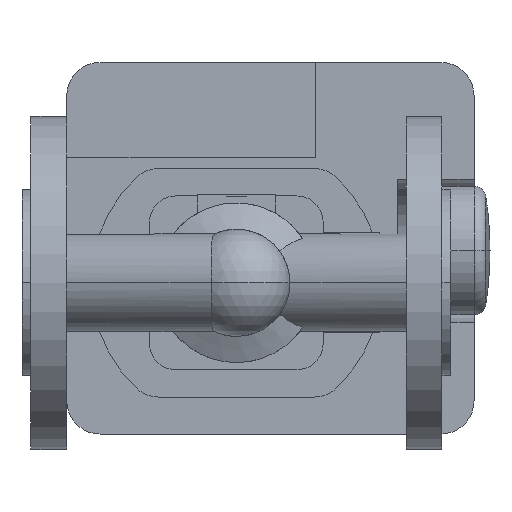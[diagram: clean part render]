
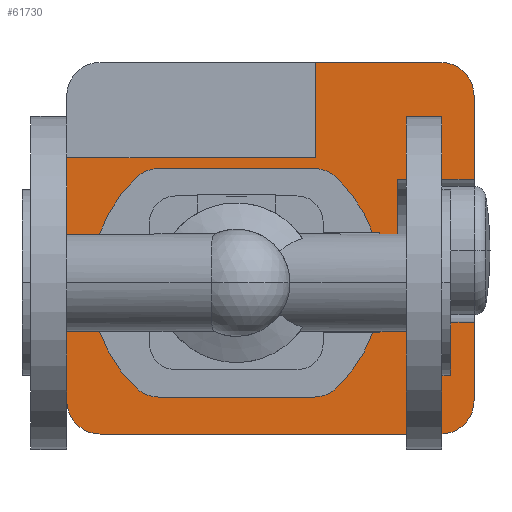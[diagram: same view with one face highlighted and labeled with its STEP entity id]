
A CAD part, front view. The second image highlights one B-rep face of the part: STEP entity #61730.
In plain terms, the highlighted planar face has unit normal (0, -1, 0).
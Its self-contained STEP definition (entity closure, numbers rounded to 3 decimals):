
#58380=CARTESIAN_POINT('',(175.8,498.5,92.5));
#58390=VERTEX_POINT('',#58380);
#58420=CARTESIAN_POINT('',(32.8,498.5,92.5));
#58430=DIRECTION('',(1.,0.,0.));
#58440=VECTOR('',#58430,1.);
#58450=LINE('',#58420,#58440);
#58460=CARTESIAN_POINT('',(123.3,498.5,92.5));
#58470=VERTEX_POINT('',#58460);
#58480=EDGE_CURVE('',#58470,#58390,#58450,.T.);
#58790=CARTESIAN_POINT('',(18.8,498.5,-49.5));
#58800=DIRECTION('',(0.,0.,1.));
#58810=VECTOR('',#58800,1.);
#58820=LINE('',#58790,#58810);
#58830=CARTESIAN_POINT('',(18.8,498.5,-49.5));
#58840=VERTEX_POINT('',#58830);
#58850=CARTESIAN_POINT('',(18.8,498.5,52.5));
#58860=VERTEX_POINT('',#58850);
#58870=EDGE_CURVE('',#58840,#58860,#58820,.T.);
#59460=CARTESIAN_POINT('',(189.8,498.5,78.5));
#59470=VERTEX_POINT('',#59460);
#59520=CARTESIAN_POINT('',(175.8,498.5,78.5));
#59530=DIRECTION('',(0.,1.,0.));
#59540=DIRECTION('',(0.,0.,1.));
#59550=AXIS2_PLACEMENT_3D('',#59520,#59530,#59540);
#59560=CIRCLE('',#59550,14.);
#59570=EDGE_CURVE('',#58390,#59470,#59560,.T.);
#59770=CARTESIAN_POINT('',(90.,498.5,0.));
#59780=DIRECTION('',(0.,1.,0.));
#59790=DIRECTION('',(0.,0.,1.));
#59800=AXIS2_PLACEMENT_3D('',#59770,#59780,#59790);
#59810=PLANE('',#59800);
#59820=CARTESIAN_POINT('',(157.8,498.5,0.));
#59830=DIRECTION('',(0.,0.,1.));
#59840=VECTOR('',#59830,1.);
#59850=LINE('',#59820,#59840);
#59860=CARTESIAN_POINT('',(157.8,498.5,-16.5));
#59870=VERTEX_POINT('',#59860);
#59880=CARTESIAN_POINT('',(157.8,498.5,43.5));
#59890=VERTEX_POINT('',#59880);
#59900=EDGE_CURVE('',#59870,#59890,#59850,.T.);
#59910=ORIENTED_EDGE('',*,*,#59900,.T.);
#59920=CARTESIAN_POINT('',(139.9,498.5,-16.5));
#59930=DIRECTION('',(-1.,0.,0.));
#59940=VECTOR('',#59930,1.);
#59950=LINE('',#59920,#59940);
#59960=CARTESIAN_POINT('',(189.8,498.5,-16.5));
#59970=VERTEX_POINT('',#59960);
#59980=EDGE_CURVE('',#59970,#59870,#59950,.T.);
#59990=ORIENTED_EDGE('',*,*,#59980,.T.);
#60000=CARTESIAN_POINT('',(189.8,498.5,78.5));
#60010=DIRECTION('',(0.,0.,-1.));
#60020=VECTOR('',#60010,1.);
#60030=LINE('',#60000,#60020);
#60040=CARTESIAN_POINT('',(189.8,498.5,-49.5));
#60050=VERTEX_POINT('',#60040);
#60060=EDGE_CURVE('',#59970,#60050,#60030,.T.);
#60070=ORIENTED_EDGE('',*,*,#60060,.F.);
#60080=CARTESIAN_POINT('',(175.8,498.5,-49.5));
#60090=DIRECTION('',(0.,1.,0.));
#60100=DIRECTION('',(1.,0.,0.));
#60110=AXIS2_PLACEMENT_3D('',#60080,#60090,#60100);
#60120=CIRCLE('',#60110,14.);
#60130=CARTESIAN_POINT('',(175.8,498.5,-63.5));
#60140=VERTEX_POINT('',#60130);
#60150=EDGE_CURVE('',#60050,#60140,#60120,.T.);
#60160=ORIENTED_EDGE('',*,*,#60150,.F.);
#60170=CARTESIAN_POINT('',(175.8,498.5,-63.5));
#60180=DIRECTION('',(-1.,0.,0.));
#60190=VECTOR('',#60180,1.);
#60200=LINE('',#60170,#60190);
#60210=CARTESIAN_POINT('',(32.8,498.5,-63.5));
#60220=VERTEX_POINT('',#60210);
#60230=EDGE_CURVE('',#60140,#60220,#60200,.T.);
#60240=ORIENTED_EDGE('',*,*,#60230,.F.);
#60250=CARTESIAN_POINT('',(32.8,498.5,-49.5));
#60260=DIRECTION('',(0.,1.,0.));
#60270=DIRECTION('',(0.,0.,-1.));
#60280=AXIS2_PLACEMENT_3D('',#60250,#60260,#60270);
#60290=CIRCLE('',#60280,14.);
#60300=EDGE_CURVE('',#60220,#58840,#60290,.T.);
#60310=ORIENTED_EDGE('',*,*,#60300,.F.);
#60320=ORIENTED_EDGE('',*,*,#58870,.F.);
#60330=CARTESIAN_POINT('',(53.9,498.5,52.5));
#60340=DIRECTION('',(-1.,0.,0.));
#60350=VECTOR('',#60340,1.);
#60360=LINE('',#60330,#60350);
#60370=CARTESIAN_POINT('',(123.3,498.5,52.5));
#60380=VERTEX_POINT('',#60370);
#60390=EDGE_CURVE('',#60380,#58860,#60360,.T.);
#60400=ORIENTED_EDGE('',*,*,#60390,.T.);
#60410=CARTESIAN_POINT('',(123.3,498.5,26.25));
#60420=DIRECTION('',(0.,0.,-1.));
#60430=VECTOR('',#60420,1.);
#60440=LINE('',#60410,#60430);
#60450=EDGE_CURVE('',#58470,#60380,#60440,.T.);
#60460=ORIENTED_EDGE('',*,*,#60450,.T.);
#60470=ORIENTED_EDGE('',*,*,#58480,.F.);
#60480=ORIENTED_EDGE('',*,*,#59570,.F.);
#60490=CARTESIAN_POINT('',(189.8,498.5,78.5));
#60500=DIRECTION('',(0.,0.,-1.));
#60510=VECTOR('',#60500,1.);
#60520=LINE('',#60490,#60510);
#60530=CARTESIAN_POINT('',(189.8,498.5,43.5));
#60540=VERTEX_POINT('',#60530);
#60550=EDGE_CURVE('',#59470,#60540,#60520,.T.);
#60560=ORIENTED_EDGE('',*,*,#60550,.F.);
#60570=CARTESIAN_POINT('',(139.9,498.5,43.5));
#60580=DIRECTION('',(1.,0.,0.));
#60590=VECTOR('',#60580,1.);
#60600=LINE('',#60570,#60590);
#60610=EDGE_CURVE('',#59890,#60540,#60600,.T.);
#60620=ORIENTED_EDGE('',*,*,#60610,.T.);
#60630=EDGE_LOOP('',(#60620,#60560,#60480,#60470,#60460,#60400,#60320,
#60310,#60240,#60160,#60070,#59990,#59910));
#60640=FACE_OUTER_BOUND('',#60630,.T.);
#60650=CARTESIAN_POINT('',(90.,498.5,0.));
#60660=DIRECTION('',(0.,1.,0.));
#60670=DIRECTION('',(0.69,0.,0.723));
#60680=AXIS2_PLACEMENT_3D('',#60650,#60660,#60670);
#60690=CIRCLE('',#60680,61.);
#60700=CARTESIAN_POINT('',(132.116,498.5,44.128));
#60710=VERTEX_POINT('',#60700);
#60720=CARTESIAN_POINT('',(149.96,498.5,11.216));
#60730=VERTEX_POINT('',#60720);
#60740=EDGE_CURVE('',#60710,#60730,#60690,.T.);
#60750=ORIENTED_EDGE('',*,*,#60740,.T.);
#60760=CARTESIAN_POINT('',(122.45,498.5,34.));
#60770=DIRECTION('',(0.,1.,0.));
#60780=DIRECTION('',(0.,0.,1.));
#60790=AXIS2_PLACEMENT_3D('',#60760,#60770,#60780);
#60800=CIRCLE('',#60790,14.);
#60810=CARTESIAN_POINT('',(122.45,498.5,48.));
#60820=VERTEX_POINT('',#60810);
#60830=EDGE_CURVE('',#60820,#60710,#60800,.T.);
#60840=ORIENTED_EDGE('',*,*,#60830,.T.);
#60850=CARTESIAN_POINT('',(73.775,498.5,48.));
#60860=DIRECTION('',(1.,0.,0.));
#60870=VECTOR('',#60860,1.);
#60880=LINE('',#60850,#60870);
#60890=CARTESIAN_POINT('',(57.55,498.5,48.));
#60900=VERTEX_POINT('',#60890);
#60910=EDGE_CURVE('',#60900,#60820,#60880,.T.);
#60920=ORIENTED_EDGE('',*,*,#60910,.T.);
#60930=CARTESIAN_POINT('',(57.55,498.5,34.));
#60940=DIRECTION('',(0.,1.,0.));
#60950=DIRECTION('',(-0.69,0.,0.723));
#60960=AXIS2_PLACEMENT_3D('',#60930,#60940,#60950);
#60970=CIRCLE('',#60960,14.);
#60980=CARTESIAN_POINT('',(47.884,498.5,44.128));
#60990=VERTEX_POINT('',#60980);
#61000=EDGE_CURVE('',#60990,#60900,#60970,.T.);
#61010=ORIENTED_EDGE('',*,*,#61000,.T.);
#61020=CARTESIAN_POINT('',(90.,498.5,0.));
#61030=DIRECTION('',(0.,1.,0.));
#61040=DIRECTION('',(-0.69,0.,-0.723));
#61050=AXIS2_PLACEMENT_3D('',#61020,#61030,#61040);
#61060=CIRCLE('',#61050,61.);
#61070=CARTESIAN_POINT('',(30.04,498.5,11.216));
#61080=VERTEX_POINT('',#61070);
#61090=EDGE_CURVE('',#61080,#60990,#61060,.T.);
#61100=ORIENTED_EDGE('',*,*,#61090,.T.);
#61110=CARTESIAN_POINT('',(40.,498.5,0.));
#61120=DIRECTION('',(0.,1.,0.));
#61130=DIRECTION('',(0.,0.,-1.));
#61140=AXIS2_PLACEMENT_3D('',#61110,#61120,#61130);
#61150=CIRCLE('',#61140,15.);
#61160=CARTESIAN_POINT('',(30.04,498.5,-11.216));
#61170=VERTEX_POINT('',#61160);
#61180=EDGE_CURVE('',#61170,#61080,#61150,.T.);
#61190=ORIENTED_EDGE('',*,*,#61180,.T.);
#61200=CARTESIAN_POINT('',(90.,498.5,0.));
#61210=DIRECTION('',(0.,1.,0.));
#61220=DIRECTION('',(-0.69,0.,-0.723));
#61230=AXIS2_PLACEMENT_3D('',#61200,#61210,#61220);
#61240=CIRCLE('',#61230,61.);
#61250=CARTESIAN_POINT('',(47.884,498.5,-44.128));
#61260=VERTEX_POINT('',#61250);
#61270=EDGE_CURVE('',#61260,#61170,#61240,.T.);
#61280=ORIENTED_EDGE('',*,*,#61270,.T.);
#61290=CARTESIAN_POINT('',(57.55,498.5,-34.));
#61300=DIRECTION('',(0.,1.,0.));
#61310=DIRECTION('',(0.,0.,-1.));
#61320=AXIS2_PLACEMENT_3D('',#61290,#61300,#61310);
#61330=CIRCLE('',#61320,14.);
#61340=CARTESIAN_POINT('',(57.55,498.5,-48.));
#61350=VERTEX_POINT('',#61340);
#61360=EDGE_CURVE('',#61350,#61260,#61330,.T.);
#61370=ORIENTED_EDGE('',*,*,#61360,.T.);
#61380=CARTESIAN_POINT('',(106.225,498.5,-48.));
#61390=DIRECTION('',(-1.,0.,0.));
#61400=VECTOR('',#61390,1.);
#61410=LINE('',#61380,#61400);
#61420=CARTESIAN_POINT('',(122.45,498.5,-48.));
#61430=VERTEX_POINT('',#61420);
#61440=EDGE_CURVE('',#61430,#61350,#61410,.T.);
#61450=ORIENTED_EDGE('',*,*,#61440,.T.);
#61460=CARTESIAN_POINT('',(122.45,498.5,-34.));
#61470=DIRECTION('',(0.,1.,0.));
#61480=DIRECTION('',(0.69,0.,-0.723));
#61490=AXIS2_PLACEMENT_3D('',#61460,#61470,#61480);
#61500=CIRCLE('',#61490,14.);
#61510=CARTESIAN_POINT('',(132.116,498.5,-44.128));
#61520=VERTEX_POINT('',#61510);
#61530=EDGE_CURVE('',#61520,#61430,#61500,.T.);
#61540=ORIENTED_EDGE('',*,*,#61530,.T.);
#61550=CARTESIAN_POINT('',(90.,498.5,0.));
#61560=DIRECTION('',(0.,1.,0.));
#61570=DIRECTION('',(0.69,0.,0.723));
#61580=AXIS2_PLACEMENT_3D('',#61550,#61560,#61570);
#61590=CIRCLE('',#61580,61.);
#61600=CARTESIAN_POINT('',(149.96,498.5,-11.216));
#61610=VERTEX_POINT('',#61600);
#61620=EDGE_CURVE('',#61610,#61520,#61590,.T.);
#61630=ORIENTED_EDGE('',*,*,#61620,.T.);
#61640=CARTESIAN_POINT('',(140.,498.5,0.));
#61650=DIRECTION('',(0.,1.,0.));
#61660=DIRECTION('',(0.,0.,1.));
#61670=AXIS2_PLACEMENT_3D('',#61640,#61650,#61660);
#61680=CIRCLE('',#61670,15.);
#61690=EDGE_CURVE('',#60730,#61610,#61680,.T.);
#61700=ORIENTED_EDGE('',*,*,#61690,.T.);
#61710=EDGE_LOOP('',(#61700,#61630,#61540,#61450,#61370,#61280,#61190,
#61100,#61010,#60920,#60840,#60750));
#61720=FACE_BOUND('',#61710,.T.);
#61730=ADVANCED_FACE('',(#60640,#61720),#59810,.F.);
